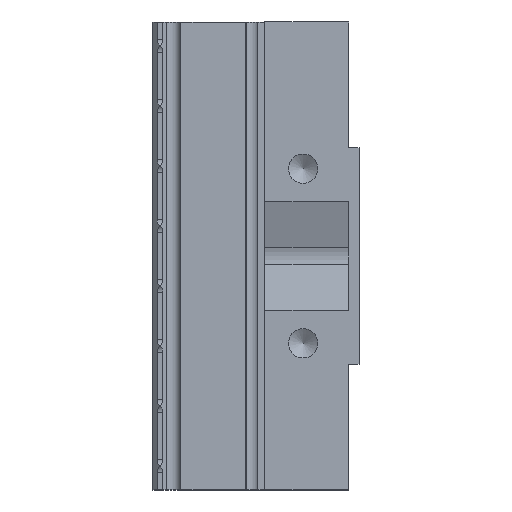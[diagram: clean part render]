
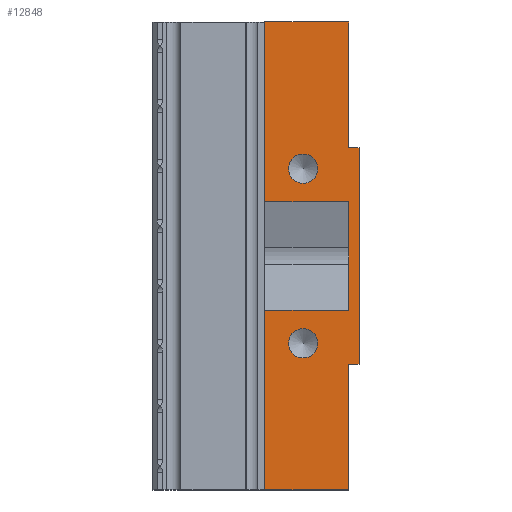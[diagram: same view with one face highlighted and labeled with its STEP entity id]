
A CAD part, left-side view. The second image highlights one B-rep face of the part: STEP entity #12848.
In plain terms, the highlighted planar face has unit normal (-1, 0, 0) as drawn and (1, 0, 0) by its records, which use the part's own axes.
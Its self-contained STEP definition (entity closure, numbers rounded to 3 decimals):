
#168 = CARTESIAN_POINT ( 'NONE',  ( 40., 12., -33.5 ) ) ;
#183 = ORIENTED_EDGE ( 'NONE', *, *, #14537, .F. ) ;
#778 = ORIENTED_EDGE ( 'NONE', *, *, #14523, .F. ) ;
#836 = VERTEX_POINT ( 'NONE', #7378 ) ;
#1101 = DIRECTION ( 'NONE',  ( 0., 0., -1. ) ) ;
#1105 = CARTESIAN_POINT ( 'NONE',  ( 40., 0., 15.5 ) ) ;
#1231 = CARTESIAN_POINT ( 'NONE',  ( 40., 0., 7.75 ) ) ;
#1296 = ORIENTED_EDGE ( 'NONE', *, *, #5639, .T. ) ;
#1373 = EDGE_CURVE ( 'NONE', #22488, #14213, #4967, .T. ) ;
#1623 = VECTOR ( 'NONE', #9050, 1000. ) ;
#1936 = EDGE_CURVE ( 'NONE', #18892, #19600, #27493, .T. ) ;
#2343 = VERTEX_POINT ( 'NONE', #3039 ) ;
#2568 = DIRECTION ( 'NONE',  ( 0., 0., -1. ) ) ;
#3039 = CARTESIAN_POINT ( 'NONE',  ( 40., 0., -15.5 ) ) ;
#3298 = CARTESIAN_POINT ( 'NONE',  ( 40., -1.5, 20.25 ) ) ;
#3799 = CARTESIAN_POINT ( 'NONE',  ( 40., 12., -7.75 ) ) ;
#4395 = VERTEX_POINT ( 'NONE', #27521 ) ;
#4888 = CARTESIAN_POINT ( 'NONE',  ( 40., 6.5, -12.5 ) ) ;
#4967 = LINE ( 'NONE', #14257, #22849 ) ;
#5108 = LINE ( 'NONE', #168, #1623 ) ;
#5212 = ORIENTED_EDGE ( 'NONE', *, *, #10341, .T. ) ;
#5227 = VECTOR ( 'NONE', #17675, 1000. ) ;
#5252 = DIRECTION ( 'NONE',  ( 0., 0., 1. ) ) ;
#5476 = LINE ( 'NONE', #16353, #18802 ) ;
#5639 = EDGE_CURVE ( 'NONE', #14213, #19600, #11317, .T. ) ;
#5942 = VERTEX_POINT ( 'NONE', #22553 ) ;
#6239 = EDGE_LOOP ( 'NONE', ( #17826, #19738, #14441, #28429, #25505, #24831, #1296, #22459, #9969, #14440, #19689, #5212 ) ) ;
#6987 = AXIS2_PLACEMENT_3D ( 'NONE', #12172, #20963, #1101 ) ;
#7090 = VECTOR ( 'NONE', #28047, 1000. ) ;
#7378 = CARTESIAN_POINT ( 'NONE',  ( 40., 0., 15.5 ) ) ;
#8138 = EDGE_LOOP ( 'NONE', ( #183 ) ) ;
#8416 = LINE ( 'NONE', #8560, #10950 ) ;
#8560 = CARTESIAN_POINT ( 'NONE',  ( 40., 0., 33.5 ) ) ;
#8696 = VERTEX_POINT ( 'NONE', #24721 ) ;
#9050 = DIRECTION ( 'NONE',  ( 0., 0., 1. ) ) ;
#9262 = LINE ( 'NONE', #26913, #9307 ) ;
#9307 = VECTOR ( 'NONE', #9400, 1000. ) ;
#9400 = DIRECTION ( 'NONE',  ( 0., -1., 0. ) ) ;
#9651 = CARTESIAN_POINT ( 'NONE',  ( 40., 0., -33.5 ) ) ;
#9969 = ORIENTED_EDGE ( 'NONE', *, *, #18838, .F. ) ;
#10341 = EDGE_CURVE ( 'NONE', #8696, #836, #8416, .T. ) ;
#10472 = VERTEX_POINT ( 'NONE', #12796 ) ;
#10946 = CARTESIAN_POINT ( 'NONE',  ( 40., 0., -15.5 ) ) ;
#10950 = VECTOR ( 'NONE', #19547, 1000. ) ;
#11317 = LINE ( 'NONE', #17969, #5227 ) ;
#11414 = VECTOR ( 'NONE', #12040, 1000. ) ;
#11415 = VECTOR ( 'NONE', #20243, 1000. ) ;
#11585 = CARTESIAN_POINT ( 'NONE',  ( 40., 0., -7.75 ) ) ;
#12032 = DIRECTION ( 'NONE',  ( 0., 0., -1. ) ) ;
#12040 = DIRECTION ( 'NONE',  ( 0., -1., 0. ) ) ;
#12172 = CARTESIAN_POINT ( 'NONE',  ( 40., 6.5, 12.5 ) ) ;
#12758 = CARTESIAN_POINT ( 'NONE',  ( 40., 0., 0. ) ) ;
#12796 = CARTESIAN_POINT ( 'NONE',  ( 40., 12., 33.5 ) ) ;
#12848 = ADVANCED_FACE ( 'NONE', ( #26045, #17081, #27780 ), #28339, .T. ) ;
#12945 = VERTEX_POINT ( 'NONE', #24303 ) ;
#14039 = DIRECTION ( 'NONE',  ( 1., 0., 0. ) ) ;
#14213 = VERTEX_POINT ( 'NONE', #3799 ) ;
#14257 = CARTESIAN_POINT ( 'NONE',  ( 40., 12., -33.5 ) ) ;
#14259 = AXIS2_PLACEMENT_3D ( 'NONE', #12758, #16928, #19093 ) ;
#14440 = ORIENTED_EDGE ( 'NONE', *, *, #15765, .T. ) ;
#14441 = ORIENTED_EDGE ( 'NONE', *, *, #24789, .T. ) ;
#14523 = EDGE_CURVE ( 'NONE', #19383, #19383, #21765, .T. ) ;
#14537 = EDGE_CURVE ( 'NONE', #23460, #23460, #16245, .T. ) ;
#14586 = EDGE_CURVE ( 'NONE', #10472, #8696, #9262, .T. ) ;
#15277 = DIRECTION ( 'NONE',  ( 0., 0., -1. ) ) ;
#15765 = EDGE_CURVE ( 'NONE', #12945, #10472, #5108, .T. ) ;
#15839 = LINE ( 'NONE', #10946, #20105 ) ;
#16245 = CIRCLE ( 'NONE', #19924, 2.1 ) ;
#16353 = CARTESIAN_POINT ( 'NONE',  ( 40., 28., -33.5 ) ) ;
#16490 = CARTESIAN_POINT ( 'NONE',  ( 40., 0., -7.75 ) ) ;
#16791 = DIRECTION ( 'NONE',  ( 0., 0., 1. ) ) ;
#16928 = DIRECTION ( 'NONE',  ( 1., 0., 0. ) ) ;
#16935 = VECTOR ( 'NONE', #16791, 1000. ) ;
#17081 = FACE_BOUND ( 'NONE', #17786, .T. ) ;
#17087 = CARTESIAN_POINT ( 'NONE',  ( 40., 6.5, -14.6 ) ) ;
#17675 = DIRECTION ( 'NONE',  ( 0., -1., 0. ) ) ;
#17786 = EDGE_LOOP ( 'NONE', ( #778 ) ) ;
#17826 = ORIENTED_EDGE ( 'NONE', *, *, #22550, .T. ) ;
#17969 = CARTESIAN_POINT ( 'NONE',  ( 40., 28., -7.75 ) ) ;
#18512 = LINE ( 'NONE', #24741, #11415 ) ;
#18802 = VECTOR ( 'NONE', #27361, 1000. ) ;
#18838 = EDGE_CURVE ( 'NONE', #12945, #18892, #18512, .T. ) ;
#18892 = VERTEX_POINT ( 'NONE', #1231 ) ;
#19093 = DIRECTION ( 'NONE',  ( 0., 0., -1. ) ) ;
#19383 = VERTEX_POINT ( 'NONE', #28076 ) ;
#19547 = DIRECTION ( 'NONE',  ( 0., 0., -1. ) ) ;
#19600 = VERTEX_POINT ( 'NONE', #11585 ) ;
#19689 = ORIENTED_EDGE ( 'NONE', *, *, #14586, .T. ) ;
#19738 = ORIENTED_EDGE ( 'NONE', *, *, #21276, .F. ) ;
#19924 = AXIS2_PLACEMENT_3D ( 'NONE', #4888, #14039, #2568 ) ;
#20105 = VECTOR ( 'NONE', #15277, 1000. ) ;
#20243 = DIRECTION ( 'NONE',  ( 0., -1., 0. ) ) ;
#20963 = DIRECTION ( 'NONE',  ( 1., 0., 0. ) ) ;
#21276 = EDGE_CURVE ( 'NONE', #5942, #4395, #23175, .T. ) ;
#21764 = VERTEX_POINT ( 'NONE', #9651 ) ;
#21765 = CIRCLE ( 'NONE', #6987, 2.1 ) ;
#22459 = ORIENTED_EDGE ( 'NONE', *, *, #1936, .F. ) ;
#22488 = VERTEX_POINT ( 'NONE', #26645 ) ;
#22550 = EDGE_CURVE ( 'NONE', #836, #4395, #26360, .T. ) ;
#22553 = CARTESIAN_POINT ( 'NONE',  ( 40., -1.5, -15.5 ) ) ;
#22576 = EDGE_CURVE ( 'NONE', #21764, #22488, #5476, .T. ) ;
#22849 = VECTOR ( 'NONE', #5252, 1000. ) ;
#23175 = LINE ( 'NONE', #3298, #16935 ) ;
#23429 = LINE ( 'NONE', #27899, #7090 ) ;
#23460 = VERTEX_POINT ( 'NONE', #17087 ) ;
#23801 = VECTOR ( 'NONE', #12032, 1000. ) ;
#24303 = CARTESIAN_POINT ( 'NONE',  ( 40., 12., 7.75 ) ) ;
#24721 = CARTESIAN_POINT ( 'NONE',  ( 40., 0., 33.5 ) ) ;
#24741 = CARTESIAN_POINT ( 'NONE',  ( 40., 28., 7.75 ) ) ;
#24789 = EDGE_CURVE ( 'NONE', #5942, #2343, #23429, .T. ) ;
#24831 = ORIENTED_EDGE ( 'NONE', *, *, #1373, .T. ) ;
#25505 = ORIENTED_EDGE ( 'NONE', *, *, #22576, .T. ) ;
#26045 = FACE_BOUND ( 'NONE', #8138, .T. ) ;
#26360 = LINE ( 'NONE', #1105, #11414 ) ;
#26645 = CARTESIAN_POINT ( 'NONE',  ( 40., 12., -33.5 ) ) ;
#26913 = CARTESIAN_POINT ( 'NONE',  ( 40., 0., 33.5 ) ) ;
#27253 = EDGE_CURVE ( 'NONE', #2343, #21764, #15839, .T. ) ;
#27361 = DIRECTION ( 'NONE',  ( 0., 1., 0. ) ) ;
#27493 = LINE ( 'NONE', #16490, #23801 ) ;
#27521 = CARTESIAN_POINT ( 'NONE',  ( 40., -1.5, 15.5 ) ) ;
#27780 = FACE_OUTER_BOUND ( 'NONE', #6239, .T. ) ;
#27899 = CARTESIAN_POINT ( 'NONE',  ( 40., -13., -15.5 ) ) ;
#28047 = DIRECTION ( 'NONE',  ( 0., 1., 0. ) ) ;
#28076 = CARTESIAN_POINT ( 'NONE',  ( 40., 6.5, 10.4 ) ) ;
#28339 = PLANE ( 'NONE',  #14259 ) ;
#28429 = ORIENTED_EDGE ( 'NONE', *, *, #27253, .T. ) ;
